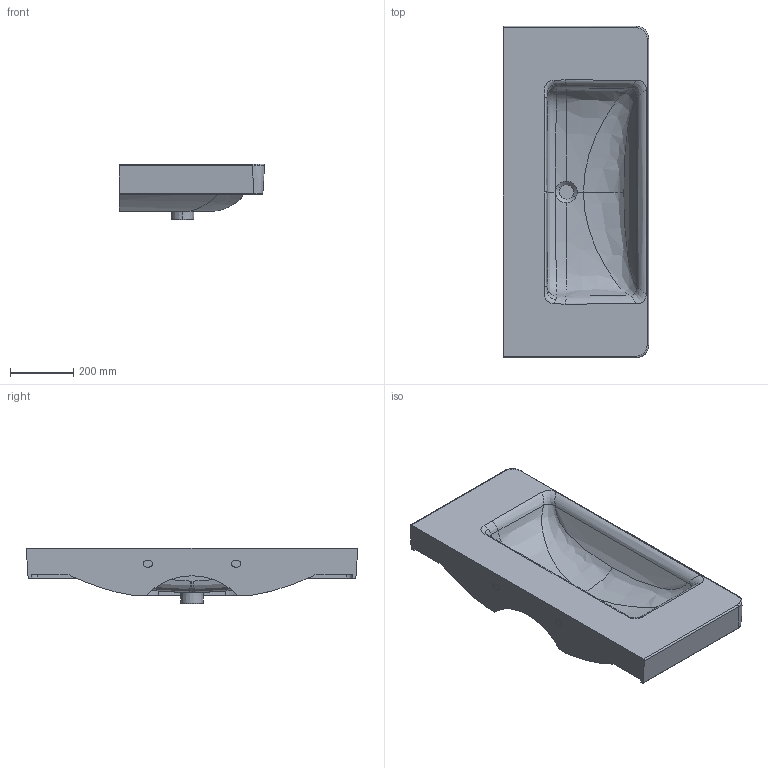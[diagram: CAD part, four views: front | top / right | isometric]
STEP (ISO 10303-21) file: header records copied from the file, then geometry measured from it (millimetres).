
FILE_DESCRIPTION(('CATIA V5 STEP'),'2;1');
FILE_NAME('G:\Laufen Similor\TPM-K\TPE\JStöckli\BIM\Laufen pro\13966\HY13966BIM.stp','2017-01-25T13:31:41+00:00',('none'),('none'),'CATIA Version 5 Release 19 SP 9 (IN-10)','CATIA V5 STEP AP203','none');
FILE_SCHEMA(('CONFIG_CONTROL_DESIGN'));
Length unit declared in the file: millimetre
Products named in the file (1): HY13966BIM
Bounding box: 460.37 x 1050.81 x 177 mm (x, y, z)
Volume: 30411793.7 mm3; surface area: 1531839.3 mm2
Topology: 1 solids, 1 shells, 101 faces, 272 edges, 181 vertices
Faces by surface type: bspline 49, plane 27, cylinder 18, cone 4, torus 2, extrusion 1
Entity records: 13763 total; most frequent: CARTESIAN_POINT 11648, ORIENTED_EDGE 532, EDGE_CURVE 266, DIRECTION 221, VERTEX_POINT 172, B_SPLINE_CURVE_WITH_KNOTS 145, EDGE_LOOP 106, ADVANCED_FACE 101
